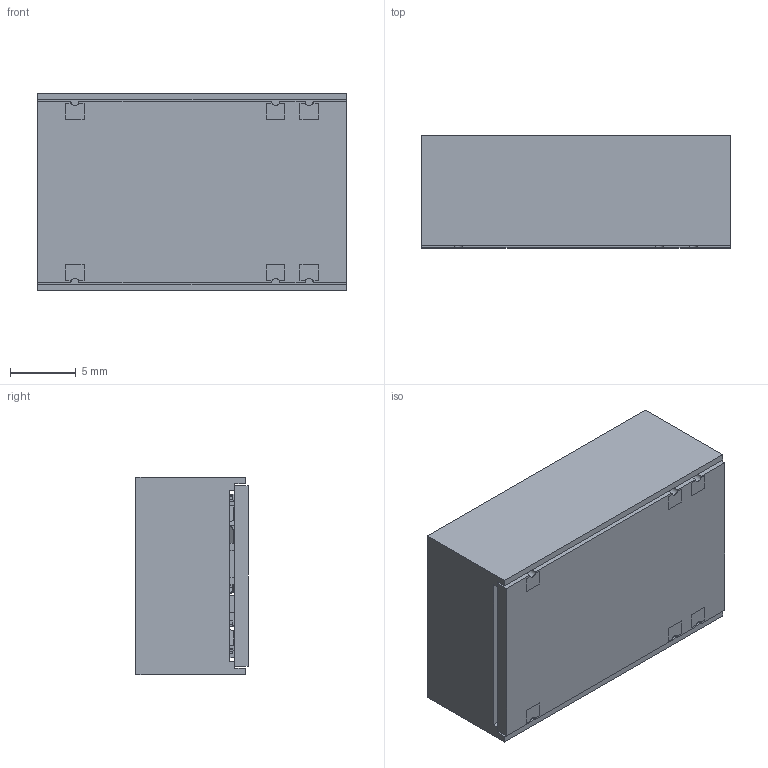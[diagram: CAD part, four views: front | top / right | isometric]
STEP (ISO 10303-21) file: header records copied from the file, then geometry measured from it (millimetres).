
FILE_DESCRIPTION (( 'STEP AP214' ), '1' );
FILE_NAME ('RA3_3D_20210609.STEP', '2021-06-09T10:50:44', ( '' ), ( '' ), 'SwSTEP 2.0', 'SolidWorks 2019', '' );
FILE_SCHEMA (( 'AUTOMOTIVE_DESIGN' ));
Length unit declared in the file: millimetre
Products named in the file (1): RA3_3D_20210609
Bounding box: 23.4 x 8.5 x 15 mm (x, y, z)
Volume: 1218.1 mm3; surface area: 2933 mm2
Topology: 97 solids, 97 shells, 1755 faces, 3938 edges, 2356 vertices
Faces by surface type: plane 849, cylinder 650, sphere 256
Entity records: 68071 total; most frequent: DIRECTION 8746, CARTESIAN_POINT 8114, ORIENTED_EDGE 7812, EDGE_CURVE 3906, AXIS2_PLACEMENT_3D 3116, LINE 2514, VECTOR 2514, VERTEX_POINT 2356
